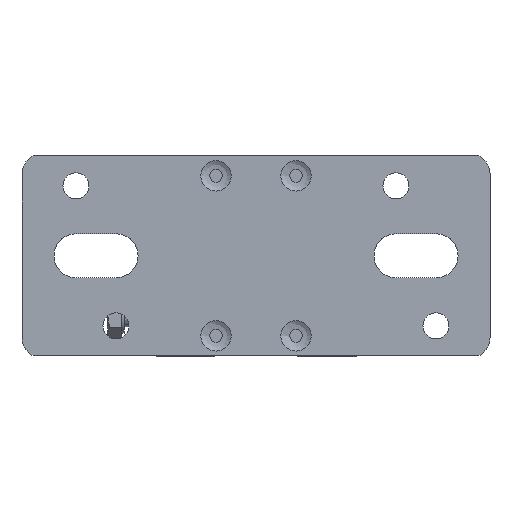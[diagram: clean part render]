
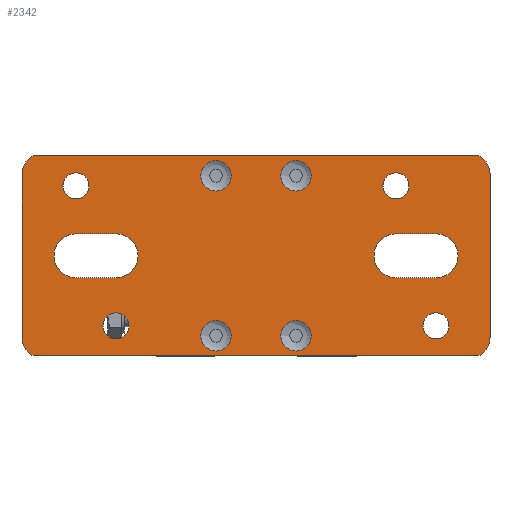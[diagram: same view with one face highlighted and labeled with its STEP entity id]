
A CAD part, top view. The second image highlights one B-rep face of the part: STEP entity #2342.
In plain terms, the highlighted planar face has unit normal (0, 0, 1).
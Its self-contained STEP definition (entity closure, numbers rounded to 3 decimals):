
#53=FACE_BOUND('',#420,.T.);
#54=FACE_BOUND('',#421,.T.);
#55=FACE_BOUND('',#422,.T.);
#56=FACE_BOUND('',#423,.T.);
#57=FACE_BOUND('',#424,.T.);
#58=FACE_BOUND('',#425,.T.);
#59=FACE_BOUND('',#426,.T.);
#60=FACE_BOUND('',#427,.T.);
#61=FACE_BOUND('',#428,.T.);
#62=FACE_BOUND('',#429,.T.);
#252=FACE_OUTER_BOUND('',#419,.T.);
#419=EDGE_LOOP('',(#1775,#1776,#1777,#1778,#1779,#1780,#1781,#1782));
#420=EDGE_LOOP('',(#1783,#1784));
#421=EDGE_LOOP('',(#1785,#1786));
#422=EDGE_LOOP('',(#1787,#1788));
#423=EDGE_LOOP('',(#1789,#1790));
#424=EDGE_LOOP('',(#1791,#1792,#1793,#1794));
#425=EDGE_LOOP('',(#1795,#1796,#1797,#1798));
#426=EDGE_LOOP('',(#1799));
#427=EDGE_LOOP('',(#1800));
#428=EDGE_LOOP('',(#1801));
#429=EDGE_LOOP('',(#1802));
#572=CIRCLE('',#2491,3.8);
#573=CIRCLE('',#2492,3.8);
#575=CIRCLE('',#2495,3.8);
#576=CIRCLE('',#2496,3.8);
#578=CIRCLE('',#2499,3.8);
#579=CIRCLE('',#2500,3.8);
#581=CIRCLE('',#2503,3.8);
#582=CIRCLE('',#2504,3.8);
#584=CIRCLE('',#2508,5.5);
#586=CIRCLE('',#2512,5.5);
#588=CIRCLE('',#2516,5.5);
#590=CIRCLE('',#2520,5.5);
#592=CIRCLE('',#2524,3.25);
#594=CIRCLE('',#2527,3.25);
#596=CIRCLE('',#2530,3.25);
#598=CIRCLE('',#2533,3.25);
#600=CIRCLE('',#2536,5.);
#602=CIRCLE('',#2540,5.);
#604=CIRCLE('',#2544,5.);
#606=CIRCLE('',#2548,5.);
#695=LINE('',#3822,#879);
#699=LINE('',#3833,#883);
#703=LINE('',#3846,#887);
#707=LINE('',#3857,#891);
#711=LINE('',#3890,#895);
#715=LINE('',#3902,#899);
#719=LINE('',#3914,#903);
#723=LINE('',#3925,#907);
#879=VECTOR('',#2875,10.);
#883=VECTOR('',#2887,10.);
#887=VECTOR('',#2899,10.);
#891=VECTOR('',#2911,10.);
#895=VECTOR('',#2947,111.359);
#899=VECTOR('',#2959,41.);
#903=VECTOR('',#2971,111.359);
#907=VECTOR('',#2983,41.);
#1069=VERTEX_POINT('',#3690);
#1070=VERTEX_POINT('',#3691);
#1072=VERTEX_POINT('',#3727);
#1073=VERTEX_POINT('',#3728);
#1075=VERTEX_POINT('',#3764);
#1076=VERTEX_POINT('',#3765);
#1078=VERTEX_POINT('',#3801);
#1079=VERTEX_POINT('',#3802);
#1081=VERTEX_POINT('',#3812);
#1082=VERTEX_POINT('',#3813);
#1085=VERTEX_POINT('',#3821);
#1087=VERTEX_POINT('',#3827);
#1089=VERTEX_POINT('',#3836);
#1090=VERTEX_POINT('',#3837);
#1093=VERTEX_POINT('',#3845);
#1095=VERTEX_POINT('',#3851);
#1097=VERTEX_POINT('',#3860);
#1099=VERTEX_POINT('',#3865);
#1101=VERTEX_POINT('',#3870);
#1103=VERTEX_POINT('',#3875);
#1105=VERTEX_POINT('',#3880);
#1106=VERTEX_POINT('',#3881);
#1109=VERTEX_POINT('',#3889);
#1111=VERTEX_POINT('',#3895);
#1113=VERTEX_POINT('',#3901);
#1115=VERTEX_POINT('',#3907);
#1117=VERTEX_POINT('',#3913);
#1119=VERTEX_POINT('',#3919);
#1290=EDGE_CURVE('',#1069,#1070,#572,.T.);
#1291=EDGE_CURVE('',#1070,#1069,#573,.T.);
#1294=EDGE_CURVE('',#1072,#1073,#575,.T.);
#1295=EDGE_CURVE('',#1073,#1072,#576,.T.);
#1298=EDGE_CURVE('',#1075,#1076,#578,.T.);
#1299=EDGE_CURVE('',#1076,#1075,#579,.T.);
#1302=EDGE_CURVE('',#1078,#1079,#581,.T.);
#1303=EDGE_CURVE('',#1079,#1078,#582,.T.);
#1306=EDGE_CURVE('',#1081,#1082,#584,.T.);
#1310=EDGE_CURVE('',#1082,#1085,#695,.T.);
#1313=EDGE_CURVE('',#1085,#1087,#586,.T.);
#1316=EDGE_CURVE('',#1087,#1081,#699,.T.);
#1318=EDGE_CURVE('',#1089,#1090,#588,.T.);
#1322=EDGE_CURVE('',#1090,#1093,#703,.T.);
#1325=EDGE_CURVE('',#1093,#1095,#590,.T.);
#1328=EDGE_CURVE('',#1095,#1089,#707,.T.);
#1330=EDGE_CURVE('',#1097,#1097,#592,.T.);
#1332=EDGE_CURVE('',#1099,#1099,#594,.T.);
#1334=EDGE_CURVE('',#1101,#1101,#596,.T.);
#1336=EDGE_CURVE('',#1103,#1103,#598,.T.);
#1338=EDGE_CURVE('',#1105,#1106,#600,.T.);
#1342=EDGE_CURVE('',#1106,#1109,#711,.T.);
#1345=EDGE_CURVE('',#1109,#1111,#602,.T.);
#1348=EDGE_CURVE('',#1111,#1113,#715,.T.);
#1351=EDGE_CURVE('',#1113,#1115,#604,.T.);
#1354=EDGE_CURVE('',#1115,#1117,#719,.T.);
#1357=EDGE_CURVE('',#1117,#1119,#606,.T.);
#1360=EDGE_CURVE('',#1119,#1105,#723,.T.);
#1775=ORIENTED_EDGE('',*,*,#1338,.F.);
#1776=ORIENTED_EDGE('',*,*,#1360,.F.);
#1777=ORIENTED_EDGE('',*,*,#1357,.F.);
#1778=ORIENTED_EDGE('',*,*,#1354,.F.);
#1779=ORIENTED_EDGE('',*,*,#1351,.F.);
#1780=ORIENTED_EDGE('',*,*,#1348,.F.);
#1781=ORIENTED_EDGE('',*,*,#1345,.F.);
#1782=ORIENTED_EDGE('',*,*,#1342,.F.);
#1783=ORIENTED_EDGE('',*,*,#1302,.T.);
#1784=ORIENTED_EDGE('',*,*,#1303,.T.);
#1785=ORIENTED_EDGE('',*,*,#1294,.T.);
#1786=ORIENTED_EDGE('',*,*,#1295,.T.);
#1787=ORIENTED_EDGE('',*,*,#1298,.T.);
#1788=ORIENTED_EDGE('',*,*,#1299,.T.);
#1789=ORIENTED_EDGE('',*,*,#1290,.T.);
#1790=ORIENTED_EDGE('',*,*,#1291,.T.);
#1791=ORIENTED_EDGE('',*,*,#1306,.T.);
#1792=ORIENTED_EDGE('',*,*,#1310,.T.);
#1793=ORIENTED_EDGE('',*,*,#1313,.T.);
#1794=ORIENTED_EDGE('',*,*,#1316,.T.);
#1795=ORIENTED_EDGE('',*,*,#1318,.T.);
#1796=ORIENTED_EDGE('',*,*,#1322,.T.);
#1797=ORIENTED_EDGE('',*,*,#1325,.T.);
#1798=ORIENTED_EDGE('',*,*,#1328,.T.);
#1799=ORIENTED_EDGE('',*,*,#1330,.T.);
#1800=ORIENTED_EDGE('',*,*,#1332,.T.);
#1801=ORIENTED_EDGE('',*,*,#1334,.T.);
#1802=ORIENTED_EDGE('',*,*,#1336,.T.);
#2222=PLANE('',#2552);
#2342=ADVANCED_FACE('',(#252,#53,#54,#55,#56,#57,#58,#59,#60,#61,#62),#2222,
 .T.);
#2491=AXIS2_PLACEMENT_3D('',#3692,#2833,#2834);
#2492=AXIS2_PLACEMENT_3D('',#3693,#2835,#2836);
#2495=AXIS2_PLACEMENT_3D('',#3729,#2841,#2842);
#2496=AXIS2_PLACEMENT_3D('',#3730,#2843,#2844);
#2499=AXIS2_PLACEMENT_3D('',#3766,#2849,#2850);
#2500=AXIS2_PLACEMENT_3D('',#3767,#2851,#2852);
#2503=AXIS2_PLACEMENT_3D('',#3803,#2857,#2858);
#2504=AXIS2_PLACEMENT_3D('',#3804,#2859,#2860);
#2508=AXIS2_PLACEMENT_3D('',#3814,#2867,#2868);
#2512=AXIS2_PLACEMENT_3D('',#3828,#2880,#2881);
#2516=AXIS2_PLACEMENT_3D('',#3838,#2891,#2892);
#2520=AXIS2_PLACEMENT_3D('',#3852,#2904,#2905);
#2524=AXIS2_PLACEMENT_3D('',#3861,#2915,#2916);
#2527=AXIS2_PLACEMENT_3D('',#3866,#2921,#2922);
#2530=AXIS2_PLACEMENT_3D('',#3871,#2927,#2928);
#2533=AXIS2_PLACEMENT_3D('',#3876,#2933,#2934);
#2536=AXIS2_PLACEMENT_3D('',#3882,#2939,#2940);
#2540=AXIS2_PLACEMENT_3D('',#3896,#2952,#2953);
#2544=AXIS2_PLACEMENT_3D('',#3908,#2964,#2965);
#2548=AXIS2_PLACEMENT_3D('',#3920,#2976,#2977);
#2552=AXIS2_PLACEMENT_3D('',#3928,#2987,#2988);
#2833=DIRECTION('center_axis',(0.,0.,-1.));
#2834=DIRECTION('ref_axis',(-1.,0.,0.));
#2835=DIRECTION('center_axis',(0.,0.,-1.));
#2836=DIRECTION('ref_axis',(-1.,0.,0.));
#2841=DIRECTION('center_axis',(0.,0.,-1.));
#2842=DIRECTION('ref_axis',(-1.,0.,0.));
#2843=DIRECTION('center_axis',(0.,0.,-1.));
#2844=DIRECTION('ref_axis',(-1.,0.,0.));
#2849=DIRECTION('center_axis',(0.,0.,-1.));
#2850=DIRECTION('ref_axis',(-1.,0.,0.));
#2851=DIRECTION('center_axis',(0.,0.,-1.));
#2852=DIRECTION('ref_axis',(-1.,0.,0.));
#2857=DIRECTION('center_axis',(0.,0.,-1.));
#2858=DIRECTION('ref_axis',(-1.,0.,0.));
#2859=DIRECTION('center_axis',(0.,0.,-1.));
#2860=DIRECTION('ref_axis',(-1.,0.,0.));
#2867=DIRECTION('center_axis',(0.,0.,-1.));
#2868=DIRECTION('ref_axis',(0.,-1.,0.));
#2875=DIRECTION('',(-1.,0.,0.));
#2880=DIRECTION('center_axis',(0.,0.,-1.));
#2881=DIRECTION('ref_axis',(0.,1.,0.));
#2887=DIRECTION('',(1.,0.,0.));
#2891=DIRECTION('center_axis',(0.,0.,-1.));
#2892=DIRECTION('ref_axis',(0.,1.,0.));
#2899=DIRECTION('',(-1.,0.,0.));
#2904=DIRECTION('center_axis',(0.,0.,-1.));
#2905=DIRECTION('ref_axis',(0.,-1.,0.));
#2911=DIRECTION('',(1.,0.,0.));
#2915=DIRECTION('center_axis',(0.,0.,-1.));
#2916=DIRECTION('ref_axis',(-1.,0.,0.));
#2921=DIRECTION('center_axis',(0.,0.,-1.));
#2922=DIRECTION('ref_axis',(-1.,0.,0.));
#2927=DIRECTION('center_axis',(0.,0.,-1.));
#2928=DIRECTION('ref_axis',(-1.,0.,0.));
#2933=DIRECTION('center_axis',(0.,0.,-1.));
#2934=DIRECTION('ref_axis',(-1.,0.,0.));
#2939=DIRECTION('center_axis',(0.,0.,-1.));
#2940=DIRECTION('ref_axis',(-0.436,0.9,0.));
#2947=DIRECTION('',(1.,0.,0.));
#2952=DIRECTION('center_axis',(0.,0.,-1.));
#2953=DIRECTION('ref_axis',(1.,0.,0.));
#2959=DIRECTION('',(0.,-1.,0.));
#2964=DIRECTION('center_axis',(0.,0.,-1.));
#2965=DIRECTION('ref_axis',(0.436,-0.9,0.));
#2971=DIRECTION('',(-1.,0.,0.));
#2976=DIRECTION('center_axis',(0.,0.,-1.));
#2977=DIRECTION('ref_axis',(-1.,0.,0.));
#2983=DIRECTION('',(0.,1.,0.));
#2987=DIRECTION('center_axis',(0.,0.,1.));
#2988=DIRECTION('ref_axis',(1.,0.,0.));
#3690=CARTESIAN_POINT('',(-6.2,-20.,4.));
#3691=CARTESIAN_POINT('',(-13.8,-20.,4.));
#3692=CARTESIAN_POINT('Origin',(-10.,-20.,4.));
#3693=CARTESIAN_POINT('Origin',(-10.,-20.,4.));
#3727=CARTESIAN_POINT('',(13.8,-20.,4.));
#3728=CARTESIAN_POINT('',(6.2,-20.,4.));
#3729=CARTESIAN_POINT('Origin',(10.,-20.,4.));
#3730=CARTESIAN_POINT('Origin',(10.,-20.,4.));
#3764=CARTESIAN_POINT('',(13.8,20.,4.));
#3765=CARTESIAN_POINT('',(6.2,20.,4.));
#3766=CARTESIAN_POINT('Origin',(10.,20.,4.));
#3767=CARTESIAN_POINT('Origin',(10.,20.,4.));
#3801=CARTESIAN_POINT('',(-6.2,20.,4.));
#3802=CARTESIAN_POINT('',(-13.8,20.,4.));
#3803=CARTESIAN_POINT('Origin',(-10.,20.,4.));
#3804=CARTESIAN_POINT('Origin',(-10.,20.,4.));
#3812=CARTESIAN_POINT('',(-35.,5.5,4.));
#3813=CARTESIAN_POINT('',(-35.,-5.5,4.));
#3814=CARTESIAN_POINT('Origin',(-35.,0.,4.));
#3821=CARTESIAN_POINT('',(-45.,-5.5,4.));
#3822=CARTESIAN_POINT('',(-17.5,-5.5,4.));
#3827=CARTESIAN_POINT('',(-45.,5.5,4.));
#3828=CARTESIAN_POINT('Origin',(-45.,0.,4.));
#3833=CARTESIAN_POINT('',(-22.5,5.5,4.));
#3836=CARTESIAN_POINT('',(45.,5.5,4.));
#3837=CARTESIAN_POINT('',(45.,-5.5,4.));
#3838=CARTESIAN_POINT('Origin',(45.,0.,4.));
#3845=CARTESIAN_POINT('',(35.,-5.5,4.));
#3846=CARTESIAN_POINT('',(22.5,-5.5,4.));
#3851=CARTESIAN_POINT('',(35.,5.5,4.));
#3852=CARTESIAN_POINT('Origin',(35.,0.,4.));
#3857=CARTESIAN_POINT('',(17.5,5.5,4.));
#3860=CARTESIAN_POINT('',(48.25,-17.5,4.));
#3861=CARTESIAN_POINT('Origin',(45.,-17.5,4.));
#3865=CARTESIAN_POINT('',(38.25,17.5,4.));
#3866=CARTESIAN_POINT('Origin',(35.,17.5,4.));
#3870=CARTESIAN_POINT('',(-31.75,-17.5,4.));
#3871=CARTESIAN_POINT('Origin',(-35.,-17.5,4.));
#3875=CARTESIAN_POINT('',(-41.75,17.5,4.));
#3876=CARTESIAN_POINT('Origin',(-45.,17.5,4.));
#3880=CARTESIAN_POINT('',(-58.5,20.5,4.));
#3881=CARTESIAN_POINT('',(-55.679,25.,4.));
#3882=CARTESIAN_POINT('Origin',(-53.5,20.5,4.));
#3889=CARTESIAN_POINT('',(55.679,25.,4.));
#3890=CARTESIAN_POINT('',(55.679,25.,4.));
#3895=CARTESIAN_POINT('',(58.5,20.5,4.));
#3896=CARTESIAN_POINT('Origin',(53.5,20.5,4.));
#3901=CARTESIAN_POINT('',(58.5,-20.5,4.));
#3902=CARTESIAN_POINT('',(58.5,-20.5,4.));
#3907=CARTESIAN_POINT('',(55.679,-25.,4.));
#3908=CARTESIAN_POINT('Origin',(53.5,-20.5,4.));
#3913=CARTESIAN_POINT('',(-55.679,-25.,4.));
#3914=CARTESIAN_POINT('',(-55.679,-25.,4.));
#3919=CARTESIAN_POINT('',(-58.5,-20.5,4.));
#3920=CARTESIAN_POINT('Origin',(-53.5,-20.5,4.));
#3925=CARTESIAN_POINT('',(-58.5,20.5,4.));
#3928=CARTESIAN_POINT('Origin',(0.,0.,
4.));
